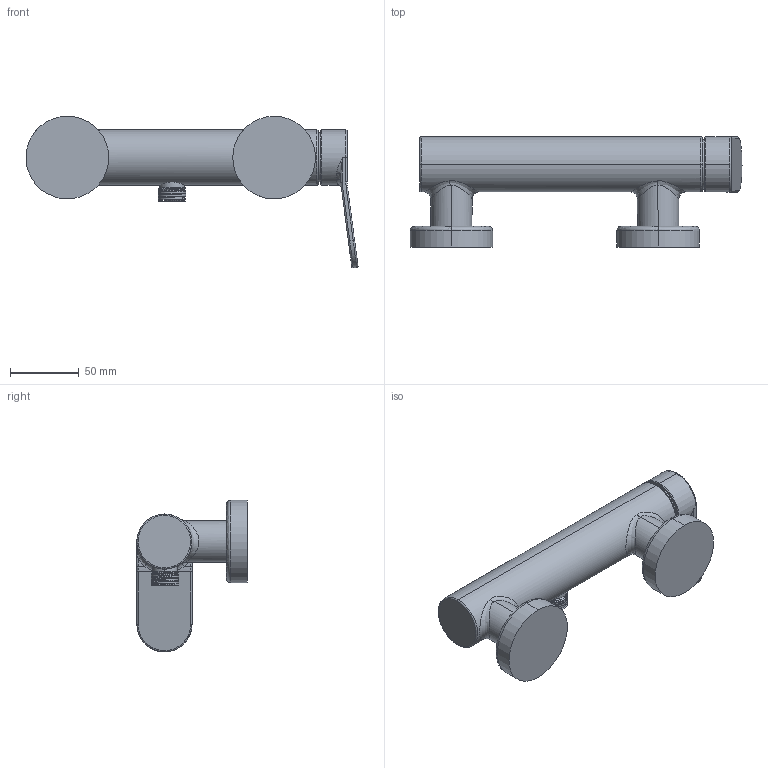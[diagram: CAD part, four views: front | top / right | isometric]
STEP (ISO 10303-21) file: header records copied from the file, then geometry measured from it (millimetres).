
FILE_DESCRIPTION (( 'STEP AP214' ), '1' );
FILE_NAME ('82201510 x architetti.STEP', '2025-01-15T08:59:56', ( '' ), ( '' ), 'SwSTEP 2.0', 'SolidWorks 2020', '' );
FILE_SCHEMA (( 'AUTOMOTIVE_DESIGN' ));
Length unit declared in the file: millimetre
Products named in the file (1): 82201510 x architetti
Bounding box: 240.85 x 80 x 109.97 mm (x, y, z)
Surface area: 56547.3 mm2 (no closed solid volume)
Topology: 0 solids, 1 shells, 79 faces, 201 edges, 119 vertices
Faces by surface type: bspline 31, cylinder 30, plane 18
Entity records: 15092 total; most frequent: CARTESIAN_POINT 13543, ORIENTED_EDGE 365, DIRECTION 238, EDGE_CURVE 189, VERTEX_POINT 115, AXIS2_PLACEMENT_3D 97, B_SPLINE_CURVE_WITH_KNOTS 87, EDGE_LOOP 84
